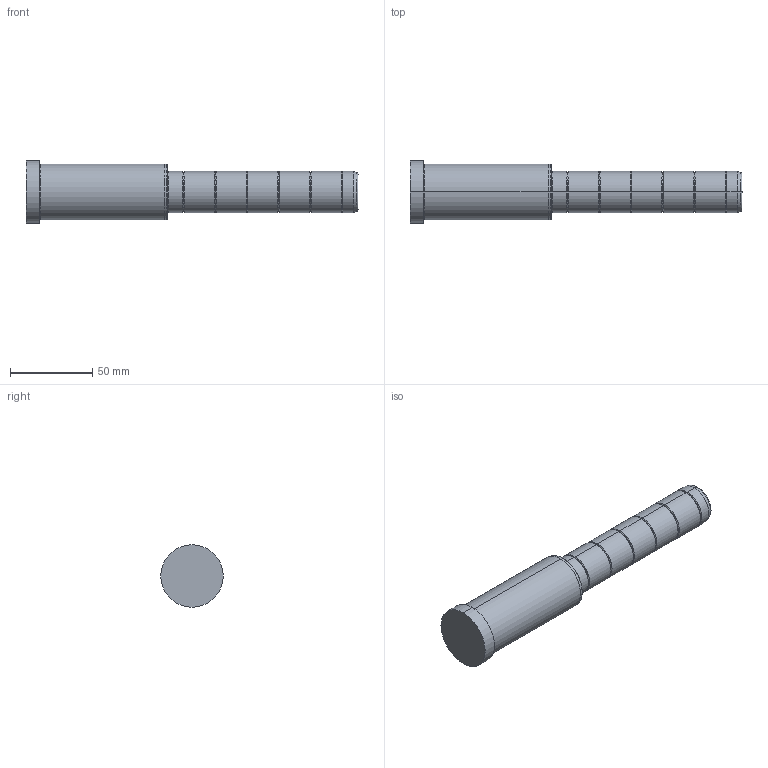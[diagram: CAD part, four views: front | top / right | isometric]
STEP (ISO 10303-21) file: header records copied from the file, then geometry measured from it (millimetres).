
FILE_DESCRIPTION( ( 'STEP AP203' ), '1' );
FILE_NAME( 'C:/Projects/D02 - 25x86x116.step', '2002-12-31T22:18:36', ( ' ' ), ( ' ' ), 'XStep 1.0', ' ', ' ' );
FILE_SCHEMA( ( 'CONFIG_CONTROL_DESIGN' ) );
Length unit declared in the file: metre
Products named in the file (1): 1
Bounding box: 202 x 38 x 38 mm (x, y, z)
Volume: 136620.4 mm3; surface area: 20796.5 mm2
Topology: 1 solids, 1 shells, 60 faces, 118 edges, 64 vertices
Faces by surface type: bspline 34, revolution 26
Entity records: 1919 total; most frequent: CARTESIAN_POINT 817, ORIENTED_EDGE 236, DIRECTION 182, EDGE_CURVE 118, AXIS2_PLACEMENT_3D 65, EDGE_LOOP 64, VERTEX_POINT 64, CIRCLE 64
